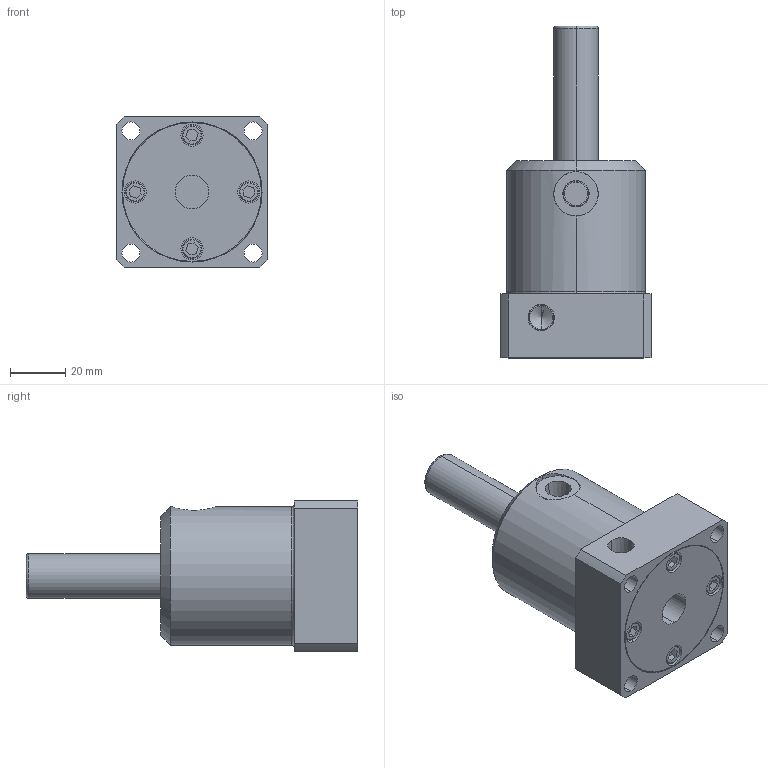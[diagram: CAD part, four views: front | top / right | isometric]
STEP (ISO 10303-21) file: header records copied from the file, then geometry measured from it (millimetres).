
FILE_DESCRIPTION((''),'2;1');
FILE_NAME('001_DESTACO_035_910_ASM','2024-02-29T',('SYSTEM'),(''),'PRO/ENGINEER BY PARAMETRIC TECHNOLOGY CORPORATION, 2016360','PRO/ENGINEER BY PARAMETRIC TECHNOLOGY CORPORATION, 2016360','');
FILE_SCHEMA(('AUTOMOTIVE_DESIGN { 1 0 10303 214 1 1 1 1 }'));
Products named in the file (10): 232BODY_5_RNM; 232BODY_6_RNM; 232BODY_4_RNM; 232BODY_3_RNM; 232BODY_2_RNM; 232BODY_0_RNM; 232-BODY_ASM; 232BODY_1_RNM; 232-SHAFT_ASM; 001_DESTACO_035_910_ASM
Assembly tree (9 placements, depth 3):
  001_DESTACO_035_910_ASM
    232-BODY_ASM
      232BODY_5_RNM
      232BODY_6_RNM
      232BODY_4_RNM
      232BODY_3_RNM
      232BODY_2_RNM
      232BODY_0_RNM
    232-SHAFT_ASM
      232BODY_1_RNM
Bounding box: 54.1 x 119.61 x 54.1 mm (x, y, z)
Volume: 157960 mm3; surface area: 36083.3 mm2
Topology: 7 solids, 7 shells, 156 faces, 345 edges, 218 vertices
Faces by surface type: cylinder 64, plane 60, cone 28, torus 4
Entity records: 6207 total; most frequent: CARTESIAN_POINT 880, DIRECTION 865, ORIENTED_EDGE 682, PRESENTATION_STYLE_ASSIGNMENT 348, STYLED_ITEM 348, AXIS2_PLACEMENT_3D 344, CURVE_STYLE 341, EDGE_CURVE 341
